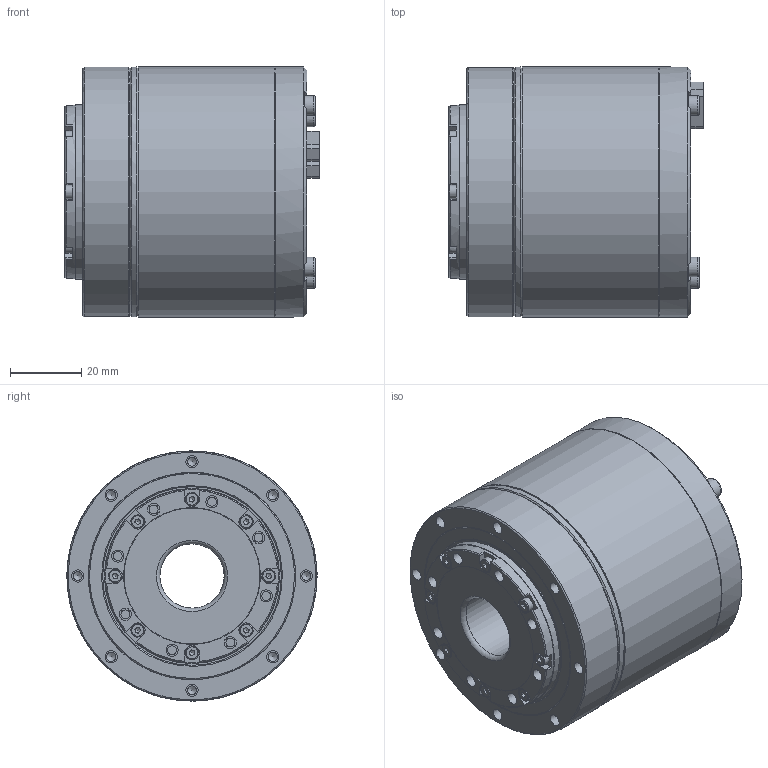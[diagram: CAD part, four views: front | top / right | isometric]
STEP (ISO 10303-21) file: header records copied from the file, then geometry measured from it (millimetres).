
FILE_DESCRIPTION (( 'STEP AP203' ), '1' );
FILE_NAME ('eRob70F｡ﾁ｡ﾁI-B-XX-18EX_V3_MC2A.BX.XX.STEP', '2025-04-01T11:34:32', ( 'Windows User' ), ( 'P R C' ), 'SwSTEP 2.0', 'SolidWorks 2021', '' );
FILE_SCHEMA (( 'CONFIG_CONTROL_DESIGN' ));
Length unit declared in the file: millimetre
Products named in the file (1): eRob70F××I-B-XX-18EX_V3_MC2A.BX.XX
Bounding box: 71.1 x 70 x 70 mm (x, y, z)
Volume: 227887.5 mm3; surface area: 33997.9 mm2
Topology: 1 solids, 1 shells, 2535 faces, 6841 edges, 4489 vertices
Faces by surface type: plane 1955, bspline 329, cylinder 159, cone 74, torus 18
Full cylindrical faces by diameter (mm): 1.2 x3, 1.5 x9, 1.6 x3, 2.1 x5, 2.5 x20, 3.4 x16, 3.8 x8, 5.5 x4, 18 x1, 48.6 x1, 49 x1, 50 x1, 58 x1, 70 x4
Entity records: 96936 total; most frequent: CARTESIAN_POINT 36010, ORIENTED_EDGE 13270, DIRECTION 10852, EDGE_CURVE 6635, LINE 5426, VECTOR 5426, VERTEX_POINT 4409, EDGE_LOOP 2920
